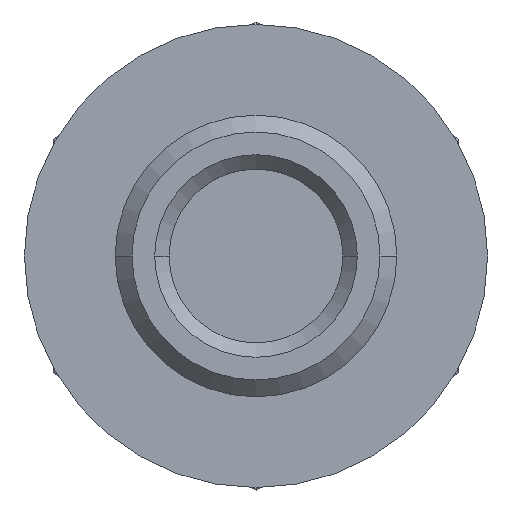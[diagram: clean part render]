
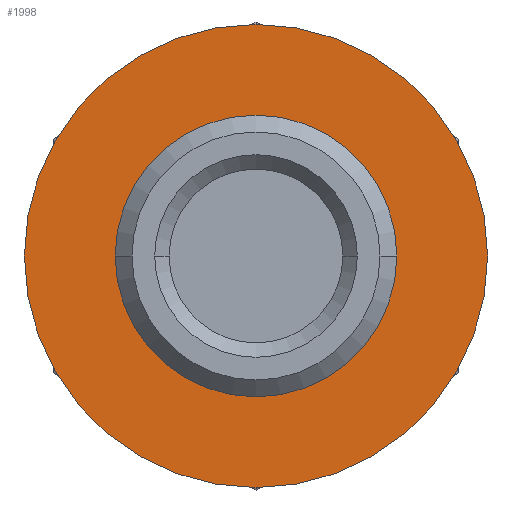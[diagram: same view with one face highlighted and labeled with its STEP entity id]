
A CAD part, front view. The second image highlights one B-rep face of the part: STEP entity #1998.
In plain terms, the highlighted planar face has unit normal (0, -1, 0).
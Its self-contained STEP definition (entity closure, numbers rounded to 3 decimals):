
#67=CARTESIAN_POINT('',(0.,5.,0.));
#68=DIRECTION('',(0.,-1.,0.));
#69=DIRECTION('',(1.,0.,0.));
#70=AXIS2_PLACEMENT_3D('',#67,#68,#69);
#72=CARTESIAN_POINT('',(0.,5.,0.));
#73=DIRECTION('',(0.,1.,0.));
#74=DIRECTION('',(1.,0.,0.));
#75=AXIS2_PLACEMENT_3D('',#72,#73,#74);
#77=CARTESIAN_POINT('',(0.,5.,0.));
#78=DIRECTION('',(0.,1.,0.));
#79=DIRECTION('',(1.,0.,0.));
#80=AXIS2_PLACEMENT_3D('',#77,#78,#79);
#86=CARTESIAN_POINT('',(0.,5.,0.));
#87=DIRECTION('',(0.,-1.,0.));
#88=DIRECTION('',(1.,0.,0.));
#89=AXIS2_PLACEMENT_3D('',#86,#87,#88);
#1741=CARTESIAN_POINT('',(4.864,5.,0.));
#1742=VERTEX_POINT('',#1741);
#1743=CARTESIAN_POINT('',(8.,5.,0.));
#1745=VERTEX_POINT('',#1743);
#1763=CARTESIAN_POINT('',(-4.864,5.,0.));
#1764=VERTEX_POINT('',#1763);
#1765=CARTESIAN_POINT('',(-8.,5.,0.));
#1767=VERTEX_POINT('',#1765);
#1983=CARTESIAN_POINT('',(0.,5.,0.));
#1984=DIRECTION('',(0.,1.,0.));
#1985=DIRECTION('',(1.,0.,0.));
#1986=AXIS2_PLACEMENT_3D('',#1983,#1984,#1985);
#1987=PLANE('',#1986);
#1989=ORIENTED_EDGE('',*,*,#1988,.T.);
#1991=ORIENTED_EDGE('',*,*,#1990,.F.);
#1992=EDGE_LOOP('',(#1989,#1991));
#1993=FACE_OUTER_BOUND('',#1992,.F.);
#1994=ORIENTED_EDGE('',*,*,#1978,.T.);
#1995=ORIENTED_EDGE('',*,*,#1962,.F.);
#1996=EDGE_LOOP('',(#1994,#1995));
#1997=FACE_BOUND('',#1996,.F.);
#1998=ADVANCED_FACE('',(#1993,#1997),#1987,.F.);
#71=CIRCLE('',#70,4.864);
#76=CIRCLE('',#75,4.864);
#81=CIRCLE('',#80,8.);
#90=CIRCLE('',#89,8.);
#1962=EDGE_CURVE('',#1742,#1764,#76,.T.);
#1978=EDGE_CURVE('',#1742,#1764,#71,.T.);
#1988=EDGE_CURVE('',#1745,#1767,#81,.T.);
#1990=EDGE_CURVE('',#1745,#1767,#90,.T.);
